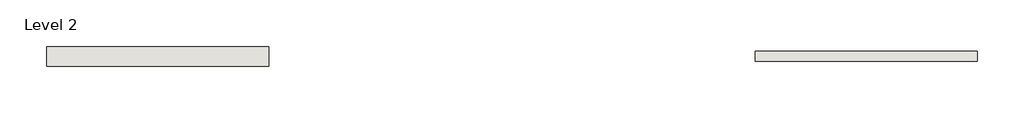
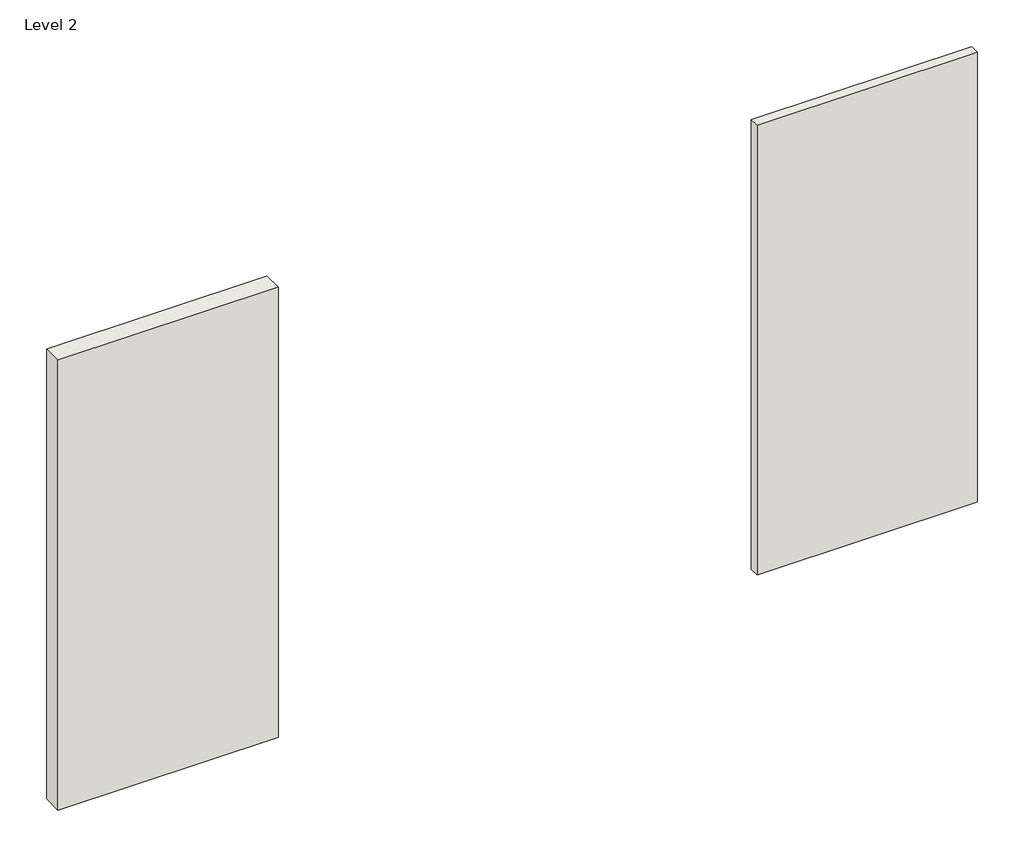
# One storey: 2 walls.
"""IFC4 building model written with IfcOpenShell, lengths in millimetres."""

from ifc_helpers import new_model, si_unit, frame, origin, place, context, project, spatial, polyline, outline, extrude, element, save

model = new_model("IFC4")

# Units and contexts
model_context = context("Model", 3, world=origin())
ifc_project = project(units=[si_unit("LENGTHUNIT", "METRE", prefix="MILLI")], contexts=[model_context])

# Site, building, storey
site = spatial("IfcSite", under=ifc_project)
building = spatial("IfcBuilding", under=site)
storey = spatial("IfcBuildingStorey", under=building, Name="Level 2", Elevation=4000.0)

# Walls
placement = place(None, origin())
element("IfcWall", 1, ObjectType="Nativo - Wood Fiber Insulation 100mm 565x1220", at=placement, inside=storey, context=model_context, shape_type="SweptSolid", body=[
    extrude(outline(polyline([(-117.735738, -1287.2130659), (-1247.735738, -1287.2130659), (-1247.735738, -1187.2130659), (-117.735738, -1187.2130659), (-117.735738, -1287.2130659)])), frame((0.0, 0.0, -417.1974511), z_axis=(0.0, 0.0, 1.0), x_axis=(1.0, 0.0, 0.0)), (0.0, 0.0, 1.0), 2440.0),
])
element("IfcWall", 2, ObjectType="Nativo - Wood Fiber Insulation 50mm 565x1220", at=placement, inside=storey, context=model_context, shape_type="SweptSolid", body=[
    extrude(outline(polyline([(3482.264262, -1262.2130659), (2352.264262, -1262.2130659), (2352.264262, -1212.2130659), (3482.264262, -1212.2130659), (3482.264262, -1262.2130659)])), frame((0.0, 0.0, -417.1974511), z_axis=(0.0, 0.0, 1.0), x_axis=(1.0, 0.0, 0.0)), (0.0, 0.0, 1.0), 2440.0),
])

save(model, "model.ifc")
